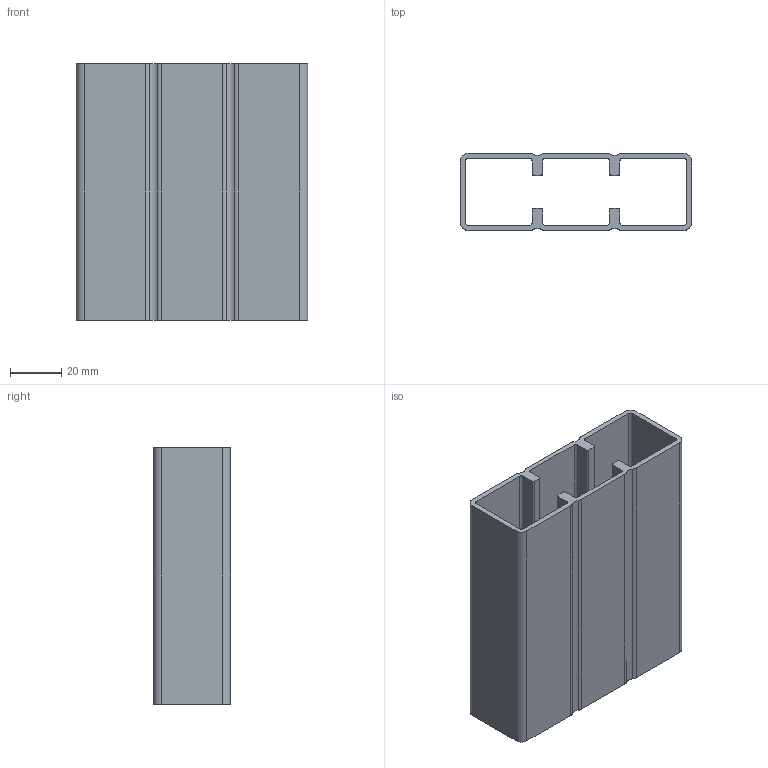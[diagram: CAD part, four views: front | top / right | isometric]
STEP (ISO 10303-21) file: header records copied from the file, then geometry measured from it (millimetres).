
FILE_DESCRIPTION (( 'STEP AP203' ), '1' );
FILE_NAME ('013.030.019.STEP', '2021-03-22T07:19:41', ( '' ), ( '' ), 'SwSTEP 2.0', 'SolidWorks 2018', '' );
FILE_SCHEMA (( 'CONFIG_CONTROL_DESIGN' ));
Length unit declared in the file: millimetre
Products named in the file (1): 013.030.019
Bounding box: 90 x 30 x 100 mm (x, y, z)
Volume: 55176.5 mm3; surface area: 51627.4 mm2
Topology: 1 solids, 1 shells, 66 faces, 192 edges, 128 vertices
Faces by surface type: cylinder 36, plane 30
Entity records: 2289 total; most frequent: DIRECTION 398, CARTESIAN_POINT 387, ORIENTED_EDGE 384, EDGE_CURVE 192, AXIS2_PLACEMENT_3D 139, VERTEX_POINT 128, LINE 120, VECTOR 120
